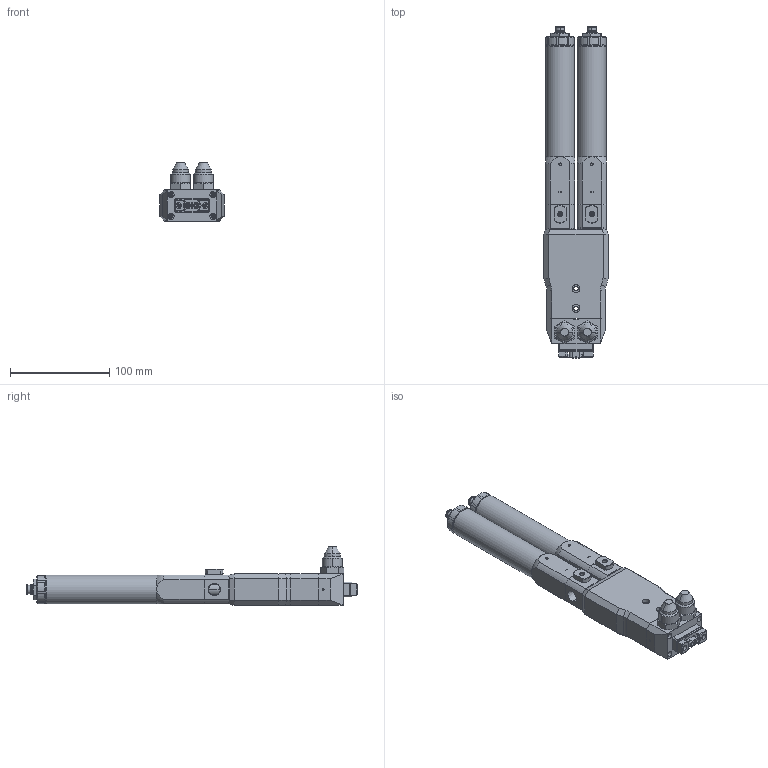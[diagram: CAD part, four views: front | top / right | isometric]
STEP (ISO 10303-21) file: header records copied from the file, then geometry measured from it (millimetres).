
FILE_DESCRIPTION (( 'STEP AP214' ), '1' );
FILE_NAME ('PDP-1000-500BA.STEP', '2024-10-11T12:21:21', ( '' ), ( '' ), 'SwSTEP 2.0', 'SolidWorks 2024', '' );
FILE_SCHEMA (( 'AUTOMOTIVE_DESIGN' ));
Length unit declared in the file: millimetre
Products named in the file (1): PDP-1000-500BA
Bounding box: 65 x 335 x 59.3 mm (x, y, z)
Volume: 504328.9 mm3; surface area: 118427.5 mm2
Topology: 13 solids, 13 shells, 1380 faces, 3446 edges, 2176 vertices
Faces by surface type: plane 525, cylinder 497, cone 303, bspline 37, torus 12, sphere 6
Full cylindrical faces by diameter (mm): 29 x2
Entity records: 71377 total; most frequent: CARTESIAN_POINT 39259, ORIENTED_EDGE 6822, DIRECTION 6465, EDGE_CURVE 3411, AXIS2_PLACEMENT_3D 2486, VERTEX_POINT 2175, EDGE_LOOP 1540, LINE 1493
